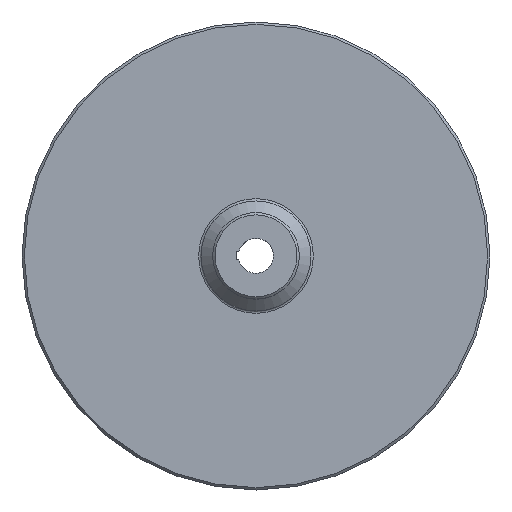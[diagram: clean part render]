
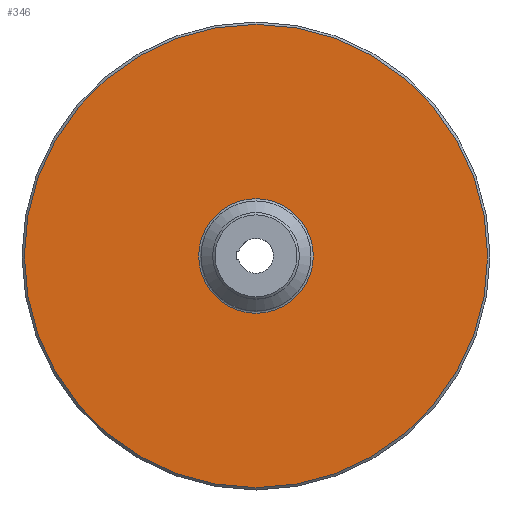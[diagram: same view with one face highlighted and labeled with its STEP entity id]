
A CAD part, top view. The second image highlights one B-rep face of the part: STEP entity #346.
In plain terms, the highlighted planar face has unit normal (0, 0, 1).
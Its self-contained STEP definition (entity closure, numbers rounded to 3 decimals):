
#23=PLANE('',#384);
#65=FACE_BOUND('',#120,.T.);
#86=FACE_OUTER_BOUND('',#119,.T.);
#119=EDGE_LOOP('',(#256));
#120=EDGE_LOOP('',(#257));
#154=CIRCLE('',#381,49.);
#156=CIRCLE('',#385,198.);
#178=VERTEX_POINT('',#737);
#180=VERTEX_POINT('',#743);
#209=EDGE_CURVE('',#178,#178,#154,.T.);
#211=EDGE_CURVE('',#180,#180,#156,.T.);
#256=ORIENTED_EDGE('',*,*,#211,.F.);
#257=ORIENTED_EDGE('',*,*,#209,.F.);
#346=ADVANCED_FACE('',(#86,#65),#23,.T.);
#381=AXIS2_PLACEMENT_3D('',#738,#442,#443);
#384=AXIS2_PLACEMENT_3D('',#742,#448,#449);
#385=AXIS2_PLACEMENT_3D('',#744,#450,#451);
#442=DIRECTION('center_axis',(0.,0.,1.));
#443=DIRECTION('ref_axis',(-1.,0.,0.));
#448=DIRECTION('center_axis',(0.,0.,1.));
#449=DIRECTION('ref_axis',(1.,0.,0.));
#450=DIRECTION('center_axis',(0.,0.,-1.));
#451=DIRECTION('ref_axis',(-1.,0.,0.));
#737=CARTESIAN_POINT('',(42.158,-11.257,-39.415));
#738=CARTESIAN_POINT('Origin',(-6.842,-11.257,-39.415));
#742=CARTESIAN_POINT('Origin',(-6.842,-11.257,-39.415));
#743=CARTESIAN_POINT('',(191.158,-11.257,-39.415));
#744=CARTESIAN_POINT('Origin',(-6.842,-11.257,-39.415));
